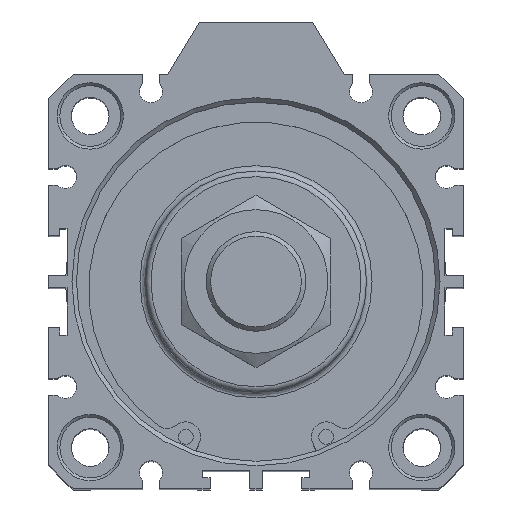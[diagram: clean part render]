
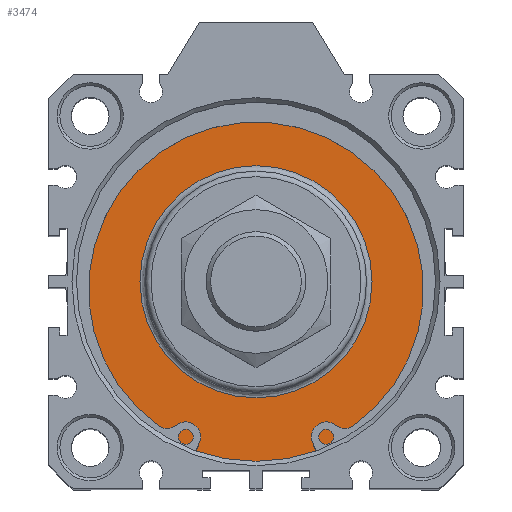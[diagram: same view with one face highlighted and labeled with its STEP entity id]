
A CAD part, top view. The second image highlights one B-rep face of the part: STEP entity #3474.
In plain terms, the highlighted planar face has unit normal (0, 0, 1).
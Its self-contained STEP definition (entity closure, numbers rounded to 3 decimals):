
#3423=CARTESIAN_POINT('',(2.99,22.555,102.3));
#3424=VERTEX_POINT('',#3423);
#3425=CARTESIAN_POINT('',(2.99,1.555,102.3));
#3426=DIRECTION('',(0.0,0.0,1.0));
#3427=DIRECTION('',(0.0,-1.0,0.0));
#3428=AXIS2_PLACEMENT_3D('',#3425,#3426,#3427);
#3429=CIRCLE('',#3428,21.);
#3430=EDGE_CURVE('',#3424,#3424,#3429,.T.);
#3455=CARTESIAN_POINT('',(2.99,27.805,102.3));
#3456=DIRECTION('',(0.0,0.0,1.0));
#3457=DIRECTION('',(1.0,0.0,0.0));
#3458=AXIS2_PLACEMENT_3D('',#3455,#3456,#3457);
#3459=PLANE('',#3458);
#3460=CARTESIAN_POINT('',(2.99,34.055,102.3));
#3461=VERTEX_POINT('',#3460);
#3462=CARTESIAN_POINT('',(2.99,1.555,102.3));
#3463=DIRECTION('',(0.0,0.0,-1.0));
#3464=DIRECTION('',(0.0,1.0,0.0));
#3465=AXIS2_PLACEMENT_3D('',#3462,#3463,#3464);
#3466=CIRCLE('',#3465,32.5);
#3467=EDGE_CURVE('',#3461,#3461,#3466,.T.);
#3468=ORIENTED_EDGE('',*,*,#3467,.F.);
#3469=EDGE_LOOP('',(#3468));
#3470=FACE_OUTER_BOUND('',#3469,.T.);
#3471=ORIENTED_EDGE('',*,*,#3430,.F.);
#3472=EDGE_LOOP('',(#3471));
#3473=FACE_BOUND('',#3472,.T.);
#3474=ADVANCED_FACE('',(#3470,#3473),#3459,.T.);
